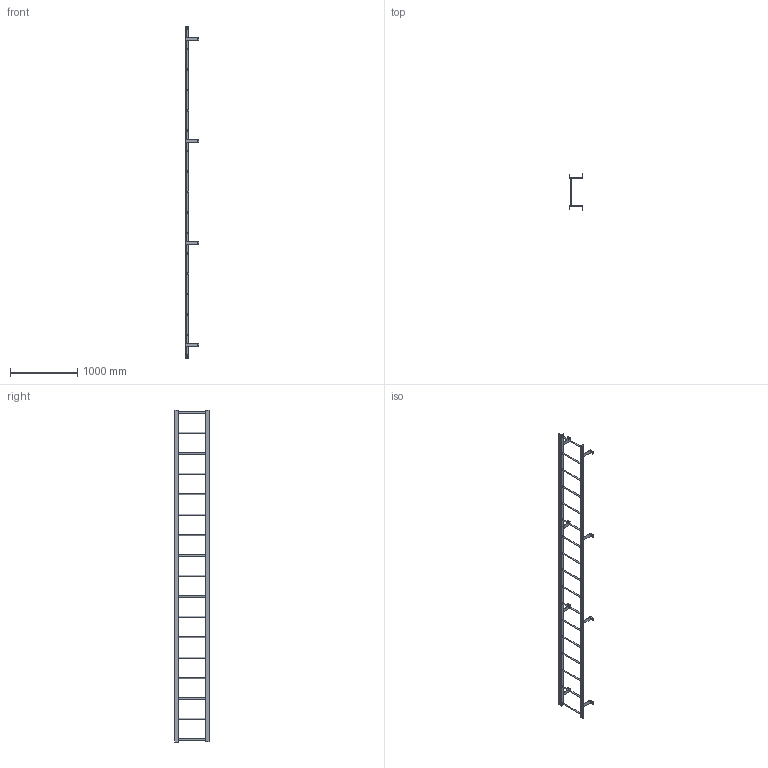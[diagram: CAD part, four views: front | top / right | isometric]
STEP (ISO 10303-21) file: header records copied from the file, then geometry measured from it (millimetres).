
FILE_DESCRIPTION(/* description */ (''),/* implementation_level */ '2;1');
FILE_NAME(/* name */ 'P:\MIKEL & KAREN\3570217 F17S SIMPLIFIED PART .stp',/* time_stamp */ '2018-07-02T15:37:55-04:00',/* author */ ('stephanie'),/* organization */ (''),/* preprocessor_version */ 'ST-DEVELOPER v16.1',/* originating_system */ 'Autodesk Inventor 2016',/* authorisation */ '');
FILE_SCHEMA (('AUTOMOTIVE_DESIGN { 1 0 10303 214 3 1 1 }'));
Length unit declared in the file: centimetre
Products named in the file (1): 3570217 F17S SIMPLIFIED PART 
Bounding box: 203.33 x 533.25 x 4953 mm (x, y, z)
Volume: 8595462.2 mm3; surface area: 2579771.2 mm2
Topology: 19 solids, 19 shells, 221 faces, 575 edges, 392 vertices
Faces by surface type: plane 123, cylinder 98
Full cylindrical faces by diameter (mm): 14.287 x8, 19.05 x17, 22.225 x34
Entity records: 6612 total; most frequent: DIRECTION 1130, CARTESIAN_POINT 1046, ORIENTED_EDGE 948, EDGE_CURVE 474, AXIS2_PLACEMENT_3D 434, EDGE_LOOP 364, VERTEX_POINT 350, LINE 262
